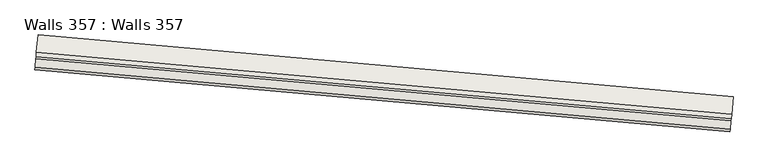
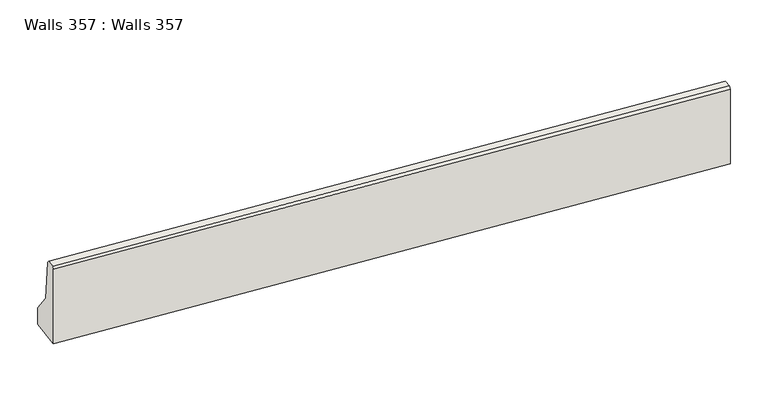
"""IFC4 building model written with IfcOpenShell, lengths in millimetres: wall geometry, Walls 357 : Walls 357."""

from ifc_helpers import new_model, si_unit, frame, origin, place, context, project, spatial, polyline, outline, extrude, source, transform, mapped, element, save


def walls_357_walls_357_1da37248(model_context):
    return source(origin(), model_context, "Body", "SweptSolid", [
        extrude(outline(polyline([(636680.0, 400.0), (636930.0, 199.9999999), (637435.0, 149.9999999), (637460.0, 125.0), (637460.0, 24.9999999), (637435.0, 0.0), (636460.0, 0.0), (636460.0, 400.0), (636680.0, 400.0)])), frame((-722479.7725332, -414715.6664176, 0.0), z_axis=(-0.9960550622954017, 0.08873732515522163, 0.0), x_axis=(0.0, 0.0, 1.0)), (0.0, 0.0, 1.0), 8000.0000001),
    ])


if __name__ == "__main__":
    model = new_model("IFC4")
    model_context = context("Model", 3, world=origin())
    ifc_project = project(units=[si_unit("LENGTHUNIT", "METRE", prefix="MILLI")], contexts=[model_context])
    site = spatial("IfcSite", under=ifc_project)
    building = spatial("IfcBuilding", under=site)
    placement = place(None, origin())
    walls_357_walls_357_shape = walls_357_walls_357_1da37248(model_context)
    element("IfcWall", 1, ObjectType="Walls 357 : Walls 357", at=placement, inside=building, context=model_context, shape_type="MappedRepresentation", body=[
        mapped(walls_357_walls_357_shape, transform((0.0, 0.0, 0.0), x_axis=(1.0, 0.0, 0.0), y_axis=(0.0, 1.0, 0.0), z_axis=(0.0, 0.0, 1.0))),
    ])
    save(model, "model.ifc")
